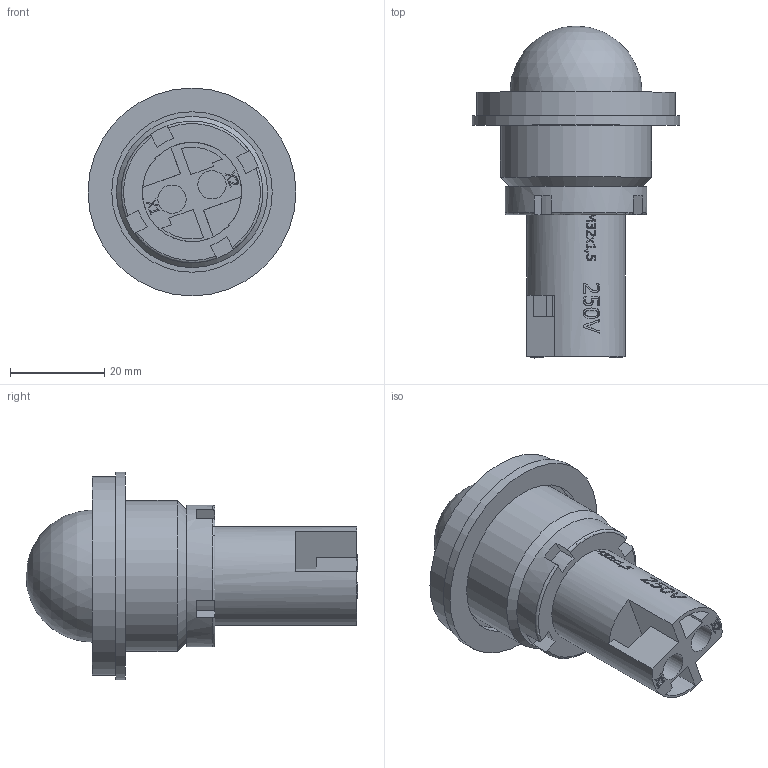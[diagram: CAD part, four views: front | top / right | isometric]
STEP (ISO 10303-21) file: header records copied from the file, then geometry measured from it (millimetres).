
FILE_DESCRIPTION((''),'2;1');
FILE_NAME('\\192.168.5.25\cortem_klient\INVENTOR БАЗА МОДЕЛЕЙ\Актуальная база моделей для отдела продаж\Элементы управления и индикации\ЛГВ\ЛГВ01Б220.stp','2019-04-09T11:47:49',('A.S.Kozlov'),(''),'Autodesk Inventor 2012','Autodesk Inventor 2012','');
FILE_SCHEMA(('CONFIG_CONTROL_DESIGN'));
Length unit declared in the file: millimetre
Products named in the file (1): ЛГВ01Б220_Внешний контур_1
Bounding box: 44 x 70.3 x 44 mm (x, y, z)
Surface area: 18198.2 mm2 (no closed solid volume)
Topology: 0 solids, 4 shells, 323 faces, 869 edges, 578 vertices
Faces by surface type: plane 170, bspline 110, cylinder 35, torus 4, cone 2, sphere 2
Full cylindrical faces by diameter (mm): 2.5 x2, 6 x2, 18.5 x1, 21 x2, 22 x1, 24 x2, 28 x2, 30 x1, 32 x1, 34 x1, 42 x1, 44 x1
Entity records: 34406 total; most frequent: CARTESIAN_POINT 26827, ORIENTED_EDGE 1684, DIRECTION 1077, EDGE_CURVE 842, VERTEX_POINT 572, VECTOR 455, LINE 455, EDGE_LOOP 376
